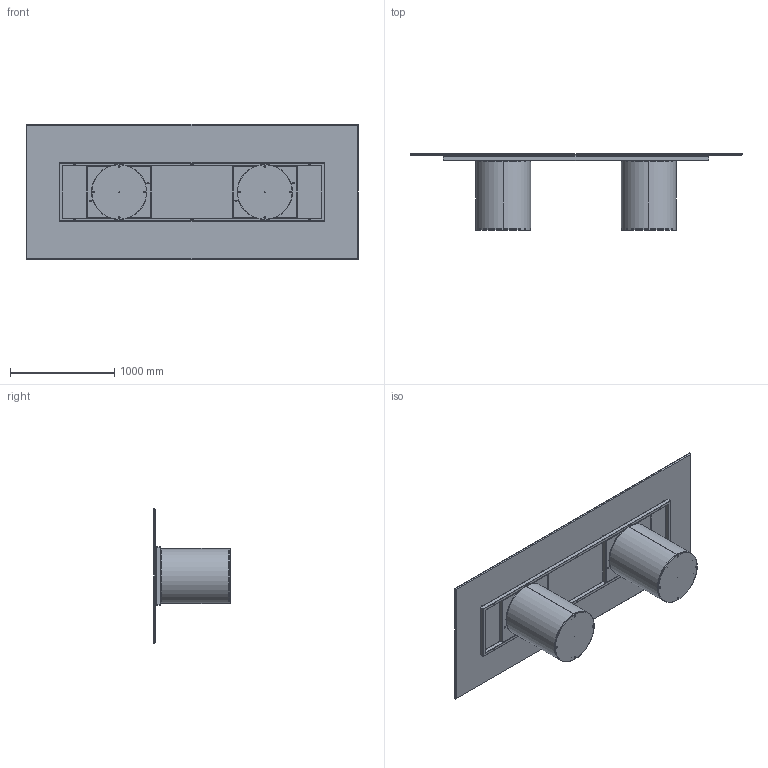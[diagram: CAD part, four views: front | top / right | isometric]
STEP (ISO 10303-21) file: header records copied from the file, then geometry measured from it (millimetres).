
FILE_DESCRIPTION (( 'STEP AP203' ), '1' );
FILE_NAME ('CI27C.STEP', '2024-08-08T07:10:52', ( '' ), ( '' ), 'SwSTEP 2.0', 'SolidWorks 2022', '' );
FILE_SCHEMA (( 'CONFIG_CONTROL_DESIGN' ));
Length unit declared in the file: millimetre
Products named in the file (11): TTAV03_01-06-RING TUBO TELAIO UNIVERSALE X TAVOLI 300-340cm; CI27C; TTAV03_02-06-VASSOIO IRRIGIDIMENTO TELAIO UNIVERSALE RETTANGOLARE; K2XCMXX-00-Piani Rettangolari in ceramica_3190 x 1300; COLLO TELAIO UNIVERSALE TTAV03 CON FERRAMENTA_MTG TOP CRISTALLO VERNICIATO-CERAMICA; C2B000000-03-CILINDRO BASE D.530mm_Normale; C2B000000_01-00-struttura cilindro D.530mm; C2B000000_02-01-ZAVORRA IN FERRO D.530mm; M8xXXmm_hex_M8X20mm; 434070-00-PIEDINO TPV GOMMA NERO D. 30x8max18_filo estetico; TTAV03-06-TELAIO UNIVERSALE X TAVOLI 300-340cm
Assembly tree (22 placements, depth 4):
  CI27C
    C2B000000-03-CILINDRO BASE D.530mm_Normale  x2
      C2B000000_01-00-struttura cilindro D.530mm
      C2B000000_02-01-ZAVORRA IN FERRO D.530mm
      M8xXXmm_hex_M8X20mm
    COLLO TELAIO UNIVERSALE TTAV03 CON FERRAMENTA_MTG TOP CRISTALLO VERNICIATO-CERAMICA
      TTAV03-06-TELAIO UNIVERSALE X TAVOLI 300-340cm
        TTAV03_01-06-RING TUBO TELAIO UNIVERSALE X TAVOLI 300-340cm
        TTAV03_02-06-VASSOIO IRRIGIDIMENTO TELAIO UNIVERSALE RETTANGOLARE  x2
      434070-00-PIEDINO TPV GOMMA NERO D. 30x8max18_filo estetico  x8
    K2XCMXX-00-Piani Rettangolari in ceramica_3190 x 1300
Bounding box: 3190 x 736 x 1300 mm (x, y, z)
Volume: 80740000 mm3; surface area: 25764149 mm2
Topology: 39 solids, 39 shells, 988 faces, 2240 edges, 1308 vertices
Faces by surface type: plane 456, cylinder 352, cone 96, torus 48, sphere 36
Entity records: 13979 total; most frequent: DIRECTION 2300, CARTESIAN_POINT 2139, ORIENTED_EDGE 2036, EDGE_CURVE 1018, AXIS2_PLACEMENT_3D 846, VERTEX_POINT 621, VECTOR 608, LINE 608
